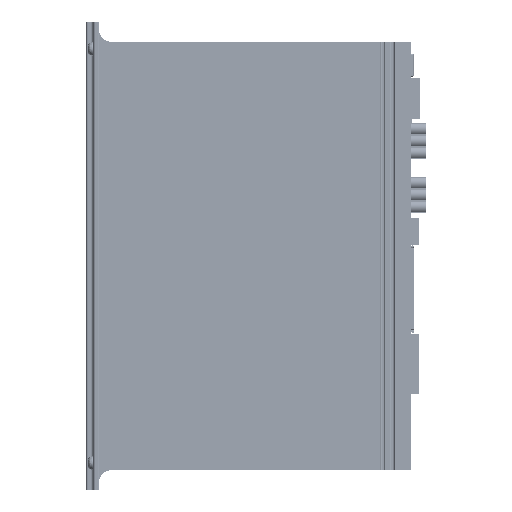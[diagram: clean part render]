
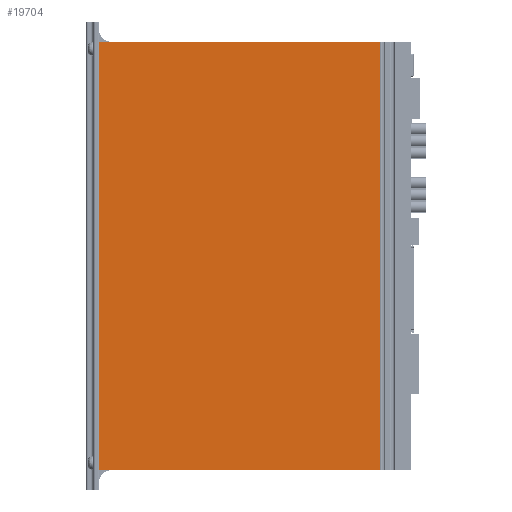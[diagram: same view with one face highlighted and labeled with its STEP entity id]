
A CAD part, front view. The second image highlights one B-rep face of the part: STEP entity #19704.
In plain terms, the highlighted planar face has unit normal (0, -1, 0) as drawn and (-1, 0, 0) by its records, which use the part's own axes.
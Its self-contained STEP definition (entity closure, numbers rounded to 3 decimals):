
#8974=DIRECTION('',(0.,-1.,0.));
#8975=VECTOR('',#8974,179.4);
#8976=CARTESIAN_POINT('',(-23.5,89.7,13.));
#8977=LINE('',#8976,#8975);
#8981=DIRECTION('',(0.,0.,-1.));
#8982=VECTOR('',#8981,118.1);
#8983=CARTESIAN_POINT('',(-23.5,89.7,131.1));
#8984=LINE('',#8983,#8982);
#8988=DIRECTION('',(0.,0.,-1.));
#8989=VECTOR('',#8988,118.1);
#8990=CARTESIAN_POINT('',(-23.5,-89.7,131.1));
#8991=LINE('',#8990,#8989);
#11291=DIRECTION('',(0.,-1.,0.));
#11292=VECTOR('',#11291,179.4);
#11293=CARTESIAN_POINT('',(-23.5,89.7,131.1));
#11294=LINE('',#11293,#11292);
#17901=CARTESIAN_POINT('',(-23.5,-89.7,131.1));
#17903=VERTEX_POINT('',#17901);
#17930=CARTESIAN_POINT('',(-23.5,89.7,131.1));
#17932=VERTEX_POINT('',#17930);
#18517=CARTESIAN_POINT('',(-23.5,89.7,13.));
#18518=CARTESIAN_POINT('',(-23.5,-89.7,13.));
#18519=VERTEX_POINT('',#18517);
#18520=VERTEX_POINT('',#18518);
#19689=CARTESIAN_POINT('',(-23.5,90.,0.));
#19690=DIRECTION('',(-1.,0.,0.));
#19691=DIRECTION('',(0.,-1.,0.));
#19692=AXIS2_PLACEMENT_3D('',#19689,#19690,#19691);
#19693=PLANE('',#19692);
#19695=ORIENTED_EDGE('',*,*,#19694,.F.);
#19697=ORIENTED_EDGE('',*,*,#19696,.F.);
#19699=ORIENTED_EDGE('',*,*,#19698,.T.);
#19701=ORIENTED_EDGE('',*,*,#19700,.T.);
#19702=EDGE_LOOP('',(#19695,#19697,#19699,#19701));
#19703=FACE_OUTER_BOUND('',#19702,.F.);
#19694=EDGE_CURVE('',#18519,#18520,#8977,.T.);
#19696=EDGE_CURVE('',#17932,#18519,#8984,.T.);
#19698=EDGE_CURVE('',#17932,#17903,#11294,.T.);
#19700=EDGE_CURVE('',#17903,#18520,#8991,.T.);
#19704=ADVANCED_FACE('',(#19703),#19693,.T.);
